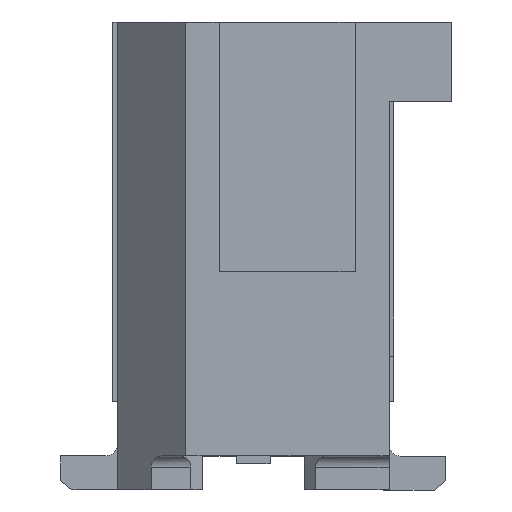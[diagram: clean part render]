
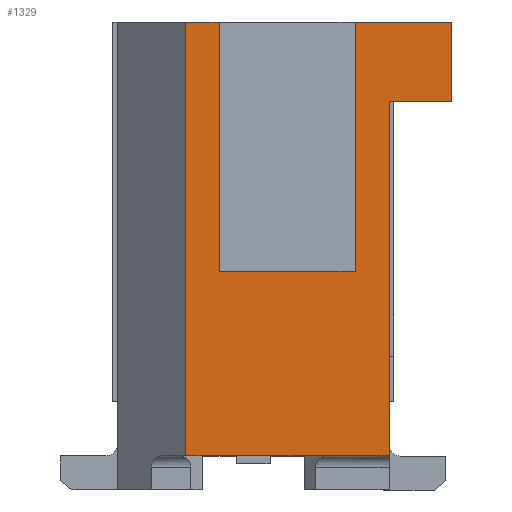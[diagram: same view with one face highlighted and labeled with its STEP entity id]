
A CAD part, left-side view. The second image highlights one B-rep face of the part: STEP entity #1329.
In plain terms, the highlighted planar face has unit normal (-1, 0, 0).
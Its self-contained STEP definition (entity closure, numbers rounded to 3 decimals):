
#1263=AXIS2_PLACEMENT_3D('Plane Axis2P3D',#1260,#1261,#1262) ;
#258=CARTESIAN_POINT('Vertex',(0.45,-0.64,4.13)) ;
#261=CARTESIAN_POINT('Line Origine',(0.45,-0.79,4.13)) ;
#265=CARTESIAN_POINT('Vertex',(0.45,-0.94,4.13)) ;
#286=CARTESIAN_POINT('Vertex',(0.45,-2.14,4.13)) ;
#289=CARTESIAN_POINT('Line Origine',(0.45,-2.565,4.13)) ;
#293=CARTESIAN_POINT('Vertex',(0.45,-2.99,4.13)) ;
#927=CARTESIAN_POINT('Vertex',(0.45,-2.99,3.43)) ;
#932=CARTESIAN_POINT('Line Origine',(0.45,-2.715,3.43)) ;
#936=CARTESIAN_POINT('Vertex',(0.45,-2.44,3.43)) ;
#1230=CARTESIAN_POINT('Vertex',(0.45,-0.64,0.299)) ;
#1233=CARTESIAN_POINT('Line Origine',(0.45,-0.64,2.215)) ;
#1260=CARTESIAN_POINT('Axis2P3D Location',(0.45,-0.64,0.)) ;
#1265=CARTESIAN_POINT('Line Origine',(0.45,-2.99,3.78)) ;
#1270=CARTESIAN_POINT('Line Origine',(0.45,-2.14,3.03)) ;
#1274=CARTESIAN_POINT('Vertex',(0.45,-2.14,1.93)) ;
#1277=CARTESIAN_POINT('Line Origine',(0.45,-1.54,1.93)) ;
#1281=CARTESIAN_POINT('Vertex',(0.45,-0.94,1.93)) ;
#1284=CARTESIAN_POINT('Line Origine',(0.45,-0.94,3.03)) ;
#1289=CARTESIAN_POINT('Line Origine',(0.45,-0.715,0.299)) ;
#1293=CARTESIAN_POINT('Vertex',(0.45,-0.79,0.299)) ;
#1296=CARTESIAN_POINT('Line Origine',(0.45,-1.24,0.3)) ;
#1300=CARTESIAN_POINT('Vertex',(0.45,-1.69,0.3)) ;
#1303=CARTESIAN_POINT('Line Origine',(0.45,-2.065,0.299)) ;
#1307=CARTESIAN_POINT('Vertex',(0.45,-2.44,0.299)) ;
#1310=CARTESIAN_POINT('Line Origine',(0.45,-2.44,1.865)) ;
#262=DIRECTION('Vector Direction',(0.,-1.,0.)) ;
#290=DIRECTION('Vector Direction',(0.,-1.,0.)) ;
#933=DIRECTION('Vector Direction',(0.,1.,0.)) ;
#1234=DIRECTION('Vector Direction',(0.,0.,1.)) ;
#1261=DIRECTION('Axis2P3D Direction',(-1.,0.,0.)) ;
#1262=DIRECTION('Axis2P3D XDirection',(0.,-1.,0.)) ;
#1266=DIRECTION('Vector Direction',(0.,0.,1.)) ;
#1271=DIRECTION('Vector Direction',(0.,0.,-1.)) ;
#1278=DIRECTION('Vector Direction',(0.,1.,0.)) ;
#1285=DIRECTION('Vector Direction',(0.,0.,-1.)) ;
#1290=DIRECTION('Vector Direction',(0.,-1.,0.)) ;
#1297=DIRECTION('Vector Direction',(0.,-1.,0.)) ;
#1304=DIRECTION('Vector Direction',(0.,-1.,0.)) ;
#1311=DIRECTION('Vector Direction',(0.,0.,-1.)) ;
#263=VECTOR('Line Direction',#262,1.) ;
#291=VECTOR('Line Direction',#290,1.) ;
#934=VECTOR('Line Direction',#933,1.) ;
#1235=VECTOR('Line Direction',#1234,1.) ;
#1267=VECTOR('Line Direction',#1266,1.) ;
#1272=VECTOR('Line Direction',#1271,1.) ;
#1279=VECTOR('Line Direction',#1278,1.) ;
#1286=VECTOR('Line Direction',#1285,1.) ;
#1291=VECTOR('Line Direction',#1290,1.) ;
#1298=VECTOR('Line Direction',#1297,1.) ;
#1305=VECTOR('Line Direction',#1304,1.) ;
#1312=VECTOR('Line Direction',#1311,1.) ;
#1316=ORIENTED_EDGE('',*,*,#938,.F.) ;
#1317=ORIENTED_EDGE('',*,*,#1269,.T.) ;
#1318=ORIENTED_EDGE('',*,*,#295,.F.) ;
#1319=ORIENTED_EDGE('',*,*,#1276,.T.) ;
#1320=ORIENTED_EDGE('',*,*,#1283,.F.) ;
#1321=ORIENTED_EDGE('',*,*,#1288,.F.) ;
#1322=ORIENTED_EDGE('',*,*,#267,.F.) ;
#1323=ORIENTED_EDGE('',*,*,#1237,.F.) ;
#1324=ORIENTED_EDGE('',*,*,#1295,.T.) ;
#1325=ORIENTED_EDGE('',*,*,#1302,.T.) ;
#1326=ORIENTED_EDGE('',*,*,#1309,.T.) ;
#1327=ORIENTED_EDGE('',*,*,#1314,.F.) ;
#1329=ADVANCED_FACE('INSULATOR-(BJF 6244603)',(#1328),#1264,.T.) ;
#267=EDGE_CURVE('',#259,#266,#264,.T.) ;
#295=EDGE_CURVE('',#287,#294,#292,.T.) ;
#938=EDGE_CURVE('',#928,#937,#935,.T.) ;
#1237=EDGE_CURVE('',#1231,#259,#1236,.T.) ;
#1269=EDGE_CURVE('',#928,#294,#1268,.T.) ;
#1276=EDGE_CURVE('',#287,#1275,#1273,.T.) ;
#1283=EDGE_CURVE('',#1282,#1275,#1280,.F.) ;
#1288=EDGE_CURVE('',#266,#1282,#1287,.T.) ;
#1295=EDGE_CURVE('',#1231,#1294,#1292,.T.) ;
#1302=EDGE_CURVE('',#1294,#1301,#1299,.T.) ;
#1309=EDGE_CURVE('',#1301,#1308,#1306,.T.) ;
#1314=EDGE_CURVE('',#937,#1308,#1313,.T.) ;
#1315=EDGE_LOOP('',(#1316,#1317,#1318,#1319,#1320,#1321,#1322,#1323,#1324,#1325,#1326,#1327)) ;
#1328=FACE_OUTER_BOUND('',#1315,.T.) ;
#264=LINE('Line',#261,#263) ;
#292=LINE('Line',#289,#291) ;
#935=LINE('Line',#932,#934) ;
#1236=LINE('Line',#1233,#1235) ;
#1268=LINE('Line',#1265,#1267) ;
#1273=LINE('Line',#1270,#1272) ;
#1280=LINE('Line',#1277,#1279) ;
#1287=LINE('Line',#1284,#1286) ;
#1292=LINE('Line',#1289,#1291) ;
#1299=LINE('Line',#1296,#1298) ;
#1306=LINE('Line',#1303,#1305) ;
#1313=LINE('Line',#1310,#1312) ;
#1264=PLANE('Plane',#1263) ;
#259=VERTEX_POINT('',#258) ;
#266=VERTEX_POINT('',#265) ;
#287=VERTEX_POINT('',#286) ;
#294=VERTEX_POINT('',#293) ;
#928=VERTEX_POINT('',#927) ;
#937=VERTEX_POINT('',#936) ;
#1231=VERTEX_POINT('',#1230) ;
#1275=VERTEX_POINT('',#1274) ;
#1282=VERTEX_POINT('',#1281) ;
#1294=VERTEX_POINT('',#1293) ;
#1301=VERTEX_POINT('',#1300) ;
#1308=VERTEX_POINT('',#1307) ;
